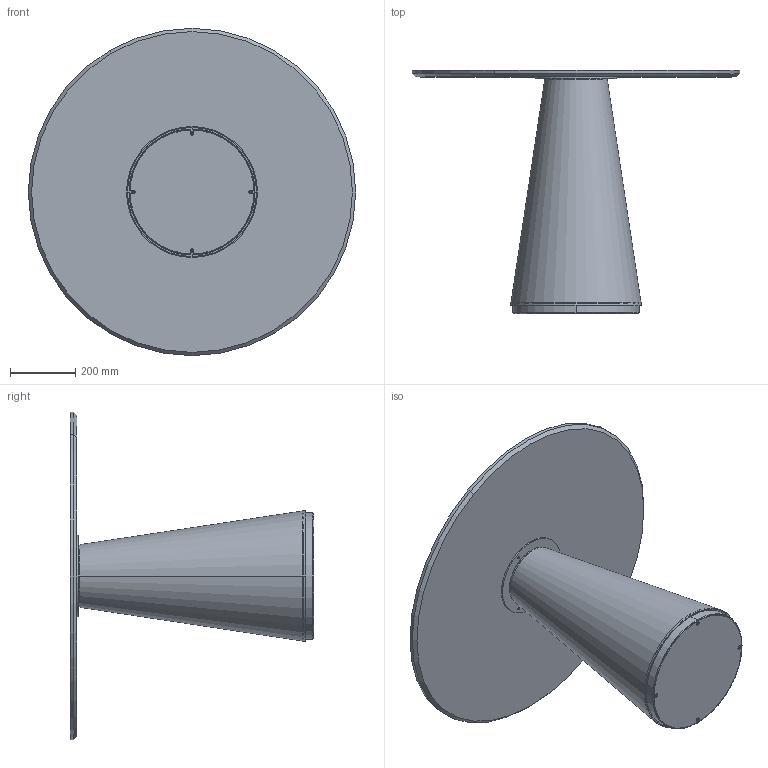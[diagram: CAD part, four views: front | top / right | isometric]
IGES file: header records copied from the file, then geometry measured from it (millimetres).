
Start section: SolidWorks IGES file using analytic representation for surfaces
Global section: file name: Y:\eforma\TECNICO\SOLIDWORKS\E-FORMA\5-TAVOLINI BISTRO\TED\02 parts\TE30M.IGS; native system: SolidWorks 2022; preprocessor: SolidWorks 2022; author: eforma.tech; date: 240808.094739; units: millimetre
Bounding box: 1000 x 743.5 x 1000 mm (x, y, z)
Volume: 16934960.8 mm3; surface area: 3421468.2 mm2
Topology: 14 solids, 14 shells, 376 faces, 795 edges, 436 vertices
Faces by surface type: revolution 201, plane 175
